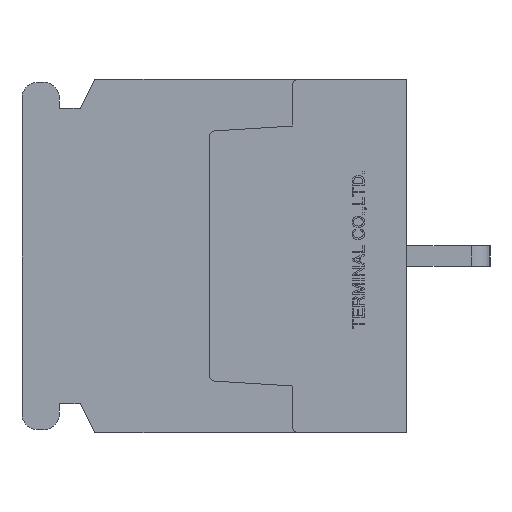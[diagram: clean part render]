
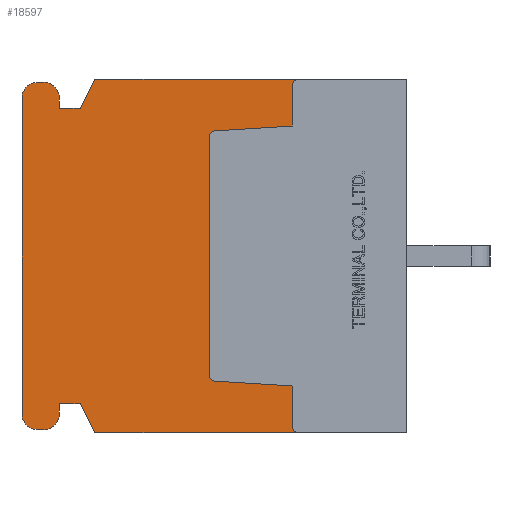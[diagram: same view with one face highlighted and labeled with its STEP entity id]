
A CAD part, left-side view. The second image highlights one B-rep face of the part: STEP entity #18597.
In plain terms, the highlighted planar face has unit normal (-1, 0, 0).
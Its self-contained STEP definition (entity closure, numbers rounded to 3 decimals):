
#424=CIRCLE('',#19052,0.3);
#425=CIRCLE('',#19054,0.3);
#426=CIRCLE('',#19058,0.3);
#427=CIRCLE('',#19061,0.3);
#808=CIRCLE('',#20090,0.75);
#809=CIRCLE('',#20091,0.75);
#810=CIRCLE('',#20092,0.75);
#811=CIRCLE('',#20093,0.75);
#1550=VERTEX_POINT('',#26009);
#1551=VERTEX_POINT('',#26010);
#1552=VERTEX_POINT('',#26015);
#1553=VERTEX_POINT('',#26019);
#1554=VERTEX_POINT('',#26020);
#1555=VERTEX_POINT('',#26025);
#1556=VERTEX_POINT('',#26029);
#1557=VERTEX_POINT('',#26033);
#1558=VERTEX_POINT('',#26037);
#1559=VERTEX_POINT('',#26041);
#2206=VERTEX_POINT('',#28127);
#2239=VERTEX_POINT('',#28200);
#2585=VERTEX_POINT('',#29416);
#2586=VERTEX_POINT('',#29418);
#2587=VERTEX_POINT('',#29420);
#2588=VERTEX_POINT('',#29422);
#2589=VERTEX_POINT('',#29424);
#2590=VERTEX_POINT('',#29426);
#2591=VERTEX_POINT('',#29428);
#2592=VERTEX_POINT('',#29430);
#2593=VERTEX_POINT('',#29432);
#2594=VERTEX_POINT('',#29434);
#2595=VERTEX_POINT('',#29436);
#2596=VERTEX_POINT('',#29438);
#3489=VECTOR('',#20900,1.);
#3495=VECTOR('',#20915,1.);
#3497=VECTOR('',#20918,1.);
#3500=VECTOR('',#20926,1.);
#3503=VECTOR('',#20934,1.);
#4112=VECTOR('',#22559,1.);
#4151=VECTOR('',#22600,1.);
#4502=VECTOR('',#23584,1.);
#4503=VECTOR('',#23585,1.);
#4504=VECTOR('',#23586,1.);
#4505=VECTOR('',#23589,1.);
#4506=VECTOR('',#23592,1.);
#4507=VECTOR('',#23595,1.);
#4508=VECTOR('',#23598,1.);
#4509=VECTOR('',#23599,1.);
#4510=VECTOR('',#23600,1.);
#5463=LINE('',#26008,#3489);
#5469=LINE('',#26024,#3495);
#5471=LINE('',#26028,#3497);
#5474=LINE('',#26036,#3500);
#5477=LINE('',#26044,#3503);
#6086=LINE('',#28126,#4112);
#6125=LINE('',#28201,#4151);
#6476=LINE('',#29415,#4502);
#6477=LINE('',#29417,#4503);
#6478=LINE('',#29419,#4504);
#6479=LINE('',#29423,#4505);
#6480=LINE('',#29427,#4506);
#6481=LINE('',#29431,#4507);
#6482=LINE('',#29435,#4508);
#6483=LINE('',#29437,#4509);
#6484=LINE('',#29439,#4510);
#7545=EDGE_CURVE('',#1550,#1551,#5463,.T.);
#7548=EDGE_CURVE('',#1552,#1550,#424,.T.);
#7550=EDGE_CURVE('',#1553,#1554,#425,.T.);
#7553=EDGE_CURVE('',#1555,#1553,#5469,.T.);
#7555=EDGE_CURVE('',#1556,#1555,#5471,.T.);
#7557=EDGE_CURVE('',#1557,#1556,#426,.T.);
#7559=EDGE_CURVE('',#1558,#1557,#5474,.T.);
#7561=EDGE_CURVE('',#1559,#1558,#427,.T.);
#7563=EDGE_CURVE('',#1551,#1559,#5477,.T.);
#8503=EDGE_CURVE('',#1552,#2206,#6086,.T.);
#8542=EDGE_CURVE('',#2239,#1554,#6125,.T.);
#9086=EDGE_CURVE('',#2585,#2239,#6476,.T.);
#9087=EDGE_CURVE('',#2586,#2585,#6477,.T.);
#9088=EDGE_CURVE('',#2587,#2586,#6478,.T.);
#9089=EDGE_CURVE('',#2588,#2587,#808,.T.);
#9090=EDGE_CURVE('',#2589,#2588,#6479,.T.);
#9091=EDGE_CURVE('',#2590,#2589,#809,.T.);
#9092=EDGE_CURVE('',#2591,#2590,#6480,.T.);
#9093=EDGE_CURVE('',#2592,#2591,#810,.T.);
#9094=EDGE_CURVE('',#2593,#2592,#6481,.T.);
#9095=EDGE_CURVE('',#2594,#2593,#811,.T.);
#9096=EDGE_CURVE('',#2595,#2594,#6482,.T.);
#9097=EDGE_CURVE('',#2596,#2595,#6483,.T.);
#9098=EDGE_CURVE('',#2206,#2596,#6484,.T.);
#13896=ORIENTED_EDGE('',*,*,#7550,.T.);
#13897=ORIENTED_EDGE('',*,*,#8542,.F.);
#13898=ORIENTED_EDGE('',*,*,#9086,.F.);
#13899=ORIENTED_EDGE('',*,*,#9087,.F.);
#13900=ORIENTED_EDGE('',*,*,#9088,.F.);
#13901=ORIENTED_EDGE('',*,*,#9089,.F.);
#13902=ORIENTED_EDGE('',*,*,#9090,.F.);
#13903=ORIENTED_EDGE('',*,*,#9091,.F.);
#13904=ORIENTED_EDGE('',*,*,#9092,.F.);
#13905=ORIENTED_EDGE('',*,*,#9093,.F.);
#13906=ORIENTED_EDGE('',*,*,#9094,.F.);
#13907=ORIENTED_EDGE('',*,*,#9095,.F.);
#13908=ORIENTED_EDGE('',*,*,#9096,.F.);
#13909=ORIENTED_EDGE('',*,*,#9097,.F.);
#13910=ORIENTED_EDGE('',*,*,#9098,.F.);
#13911=ORIENTED_EDGE('',*,*,#8503,.F.);
#13912=ORIENTED_EDGE('',*,*,#7548,.T.);
#13913=ORIENTED_EDGE('',*,*,#7545,.T.);
#13914=ORIENTED_EDGE('',*,*,#7563,.T.);
#13915=ORIENTED_EDGE('',*,*,#7561,.T.);
#13916=ORIENTED_EDGE('',*,*,#7559,.T.);
#13917=ORIENTED_EDGE('',*,*,#7557,.T.);
#13918=ORIENTED_EDGE('',*,*,#7555,.T.);
#13919=ORIENTED_EDGE('',*,*,#7553,.T.);
#16293=EDGE_LOOP('',(#13896,#13897,#13898,#13899,#13900,#13901,#13902,#13903,
#13904,#13905,#13906,#13907,#13908,#13909,#13910,#13911,#13912,#13913,#13914,
#13915,#13916,#13917,#13918,#13919));
#17489=FACE_BOUND('',#16293,.T.);
#18597=ADVANCED_FACE('',(#17489),#31918,.F.);
#19052=AXIS2_PLACEMENT_3D('',#26014,#20905,#20906);
#19054=AXIS2_PLACEMENT_3D('',#26018,#20910,#20911);
#19058=AXIS2_PLACEMENT_3D('',#26032,#20922,#20923);
#19061=AXIS2_PLACEMENT_3D('',#26040,#20930,#20931);
#20089=AXIS2_PLACEMENT_3D('',#29414,#23583,$);
#20090=AXIS2_PLACEMENT_3D('',#29421,#23587,#23588);
#20091=AXIS2_PLACEMENT_3D('',#29425,#23590,#23591);
#20092=AXIS2_PLACEMENT_3D('',#29429,#23593,#23594);
#20093=AXIS2_PLACEMENT_3D('',#29433,#23596,#23597);
#20900=DIRECTION('',(0.,0.,1.));
#20905=DIRECTION('',(1.,0.,0.));
#20906=DIRECTION('',(0.,0.,-0.3));
#20910=DIRECTION('',(1.,0.,0.));
#20911=DIRECTION('',(0.,0.,-0.3));
#20915=DIRECTION('',(0.,0.,1.));
#20918=DIRECTION('',(0.,-0.998,0.062));
#20922=DIRECTION('',(1.,0.,0.));
#20923=DIRECTION('',(0.,0.,-0.3));
#20926=DIRECTION('',(0.,0.,1.));
#20930=DIRECTION('',(1.,0.,0.));
#20931=DIRECTION('',(0.,0.,-0.3));
#20934=DIRECTION('',(0.,0.998,0.062));
#22559=DIRECTION('',(0.,1.,0.));
#22600=DIRECTION('',(0.,-1.,0.));
#23583=DIRECTION('',(1.,0.,0.));
#23584=DIRECTION('',(0.,-0.447,0.894));
#23585=DIRECTION('',(0.,-1.,0.));
#23586=DIRECTION('',(0.,0.,-1.));
#23587=DIRECTION('',(1.,0.,0.));
#23588=DIRECTION('',(0.,0.,-0.75));
#23589=DIRECTION('',(0.,-1.,0.));
#23590=DIRECTION('',(1.,0.,0.));
#23591=DIRECTION('',(0.,0.,-0.75));
#23592=DIRECTION('',(0.,0.,1.));
#23593=DIRECTION('',(1.,0.,0.));
#23594=DIRECTION('',(0.,0.,-0.75));
#23595=DIRECTION('',(0.,1.,0.));
#23596=DIRECTION('',(1.,0.,0.));
#23597=DIRECTION('',(0.,0.,-0.75));
#23598=DIRECTION('',(0.,0.,-1.));
#23599=DIRECTION('',(0.,1.,0.));
#23600=DIRECTION('',(0.,0.447,0.894));
#26008=CARTESIAN_POINT('',(0.,5.5,-3.613));
#26009=CARTESIAN_POINT('',(0.,5.5,-8.2));
#26010=CARTESIAN_POINT('',(0.,5.5,-6.25));
#26014=CARTESIAN_POINT('',(0.,5.2,-8.2));
#26015=CARTESIAN_POINT('',(0.,5.2,-8.5));
#26018=CARTESIAN_POINT('',(0.,5.2,8.2));
#26019=CARTESIAN_POINT('',(0.,5.5,8.2));
#26020=CARTESIAN_POINT('',(0.,5.2,8.5));
#26024=CARTESIAN_POINT('',(0.,5.5,3.612));
#26025=CARTESIAN_POINT('',(0.,5.5,6.25));
#26028=CARTESIAN_POINT('',(0.,8.598,6.056));
#26029=CARTESIAN_POINT('',(0.,9.219,6.018));
#26032=CARTESIAN_POINT('',(0.,9.2,5.718));
#26033=CARTESIAN_POINT('',(0.,9.5,5.718));
#26036=CARTESIAN_POINT('',(0.,9.5,0.));
#26037=CARTESIAN_POINT('',(0.,9.5,-5.718));
#26040=CARTESIAN_POINT('',(0.,9.2,-5.718));
#26041=CARTESIAN_POINT('',(0.,9.219,-6.018));
#26044=CARTESIAN_POINT('',(0.,8.598,-6.056));
#28126=CARTESIAN_POINT('',(0.,0.,-8.5));
#28127=CARTESIAN_POINT('',(0.,15.,-8.5));
#28200=CARTESIAN_POINT('',(0.,15.,8.5));
#28201=CARTESIAN_POINT('',(0.,15.,8.5));
#29414=CARTESIAN_POINT('',(0.,9.463,0.));
#29415=CARTESIAN_POINT('',(0.,15.7,7.1));
#29416=CARTESIAN_POINT('',(0.,15.7,7.1));
#29417=CARTESIAN_POINT('',(0.,16.7,7.1));
#29418=CARTESIAN_POINT('',(0.,16.7,7.1));
#29419=CARTESIAN_POINT('',(0.,16.7,7.6));
#29420=CARTESIAN_POINT('',(0.,16.7,7.6));
#29421=CARTESIAN_POINT('',(0.,17.45,7.6));
#29422=CARTESIAN_POINT('',(0.,17.45,8.35));
#29423=CARTESIAN_POINT('',(0.,17.75,8.35));
#29424=CARTESIAN_POINT('',(0.,17.75,8.35));
#29425=CARTESIAN_POINT('',(0.,17.75,7.6));
#29426=CARTESIAN_POINT('',(0.,18.5,7.6));
#29427=CARTESIAN_POINT('',(0.,18.5,-7.6));
#29428=CARTESIAN_POINT('',(0.,18.5,-7.6));
#29429=CARTESIAN_POINT('',(0.,17.75,-7.6));
#29430=CARTESIAN_POINT('',(0.,17.75,-8.35));
#29431=CARTESIAN_POINT('',(0.,17.45,-8.35));
#29432=CARTESIAN_POINT('',(0.,17.45,-8.35));
#29433=CARTESIAN_POINT('',(0.,17.45,-7.6));
#29434=CARTESIAN_POINT('',(0.,16.7,-7.6));
#29435=CARTESIAN_POINT('',(0.,16.7,-7.1));
#29436=CARTESIAN_POINT('',(0.,16.7,-7.1));
#29437=CARTESIAN_POINT('',(0.,15.7,-7.1));
#29438=CARTESIAN_POINT('',(0.,15.7,-7.1));
#29439=CARTESIAN_POINT('',(0.,15.,-8.5));
#31918=PLANE('',#20089);
